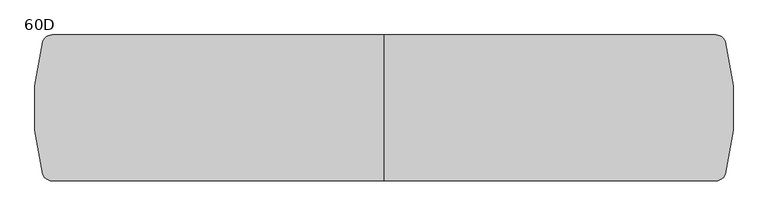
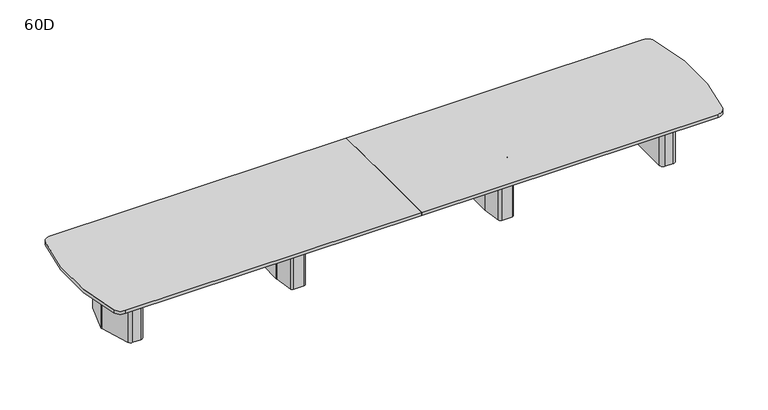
"""IFC4 building model written with IfcOpenShell, lengths in millimetres: furniture geometry, Coalesse_AM_Table_Conference_ETable2_SoftRadiused_24ft_FourBase : 60D."""

import ifcopenshell
import ifcopenshell.guid

model = None  # the IFC model being written
_history = None  # IfcOwnerHistory: only IFC2X3 demands one
_inside = {}  # id of a spatial element -> (the spatial element, [elements in it])
_under = {}  # id of a project, library or spatial element -> (it, [spatial elements below it])
_declared = {}  # id of a project -> (the project, [libraries it declares])
_typed = {}  # id of a type object -> (the type object, [elements of that type])
_made_of = {}  # id of a material, layer set ... -> (it, [elements and type objects made of it])


def new_model(schema):
    """Start an empty IFC model of exactly this schema.

    Asked for "IFC4X3", IfcOpenShell would pick the latest addendum, in which some entities
    have other attributes; the version numbers below select the first issue.
    IFC2X3 requires an IfcOwnerHistory on every rooted entity: one is made here for all.
    """
    global model, _history
    if schema == "IFC4X3":
        model = ifcopenshell.file(schema_version=(4, 3, 0, 0))
    else:
        model = ifcopenshell.file(schema=schema)
    _inside.clear()
    _under.clear()
    _declared.clear()
    _typed.clear()
    _made_of.clear()
    _history = None
    if model.schema == "IFC2X3":
        org = make("IfcOrganization", Name="unknown")
        user = make(
            "IfcPersonAndOrganization",
            ThePerson=make("IfcPerson", FamilyName="unknown"),
            TheOrganization=org,
        )
        app = make(
            "IfcApplication",
            ApplicationDeveloper=org,
            Version="unknown",
            ApplicationFullName="unknown",
            ApplicationIdentifier="unknown",
        )
        _history = make(
            "IfcOwnerHistory",
            OwningUser=user,
            OwningApplication=app,
            ChangeAction="ADDED",
            CreationDate=0,
        )
    return model


def make(cls, **values):
    """One entity of the class cls with the attributes given. An attribute that is None is left unset."""
    return model.create_entity(
        cls, **{name: value for name, value in values.items() if value is not None}
    )


def rooted(cls, **values):
    """An entity with a GlobalId (a new one), such as an element, a storey or a relation."""
    return make(cls, GlobalId=ifcopenshell.guid.new(), OwnerHistory=_history, **values)


def si_unit(unit_type, name, prefix=None):
    """IfcSIUnit, for example si_unit("LENGTHUNIT", "METRE", prefix="MILLI")."""
    return make("IfcSIUnit", UnitType=unit_type, Prefix=prefix, Name=name)


def assignment(units):
    """IfcUnitAssignment: the units of a project."""
    return None if units is None else make("IfcUnitAssignment", Units=units)


def point(xyz):
    """IfcCartesianPoint."""
    return None if xyz is None else make("IfcCartesianPoint", Coordinates=xyz)


def direction(xyz):
    """IfcDirection."""
    return None if xyz is None else make("IfcDirection", DirectionRatios=xyz)


def frame(location, z_axis=None, x_axis=None):
    """IfcAxis2Placement3D, a coordinate frame: its origin and axes. An axis left out is left unset."""
    return make(
        "IfcAxis2Placement3D",
        Location=point(location),
        Axis=direction(z_axis),
        RefDirection=direction(x_axis),
    )


def frame_2d(location, x_axis=None):
    """IfcAxis2Placement2D, a coordinate frame in the plane: its origin and x axis."""
    return make(
        "IfcAxis2Placement2D", Location=point(location), RefDirection=direction(x_axis)
    )


def origin():
    """The frame at (0, 0, 0) with its axes left unset."""
    return frame((0.0, 0.0, 0.0))


def origin_with_axes():
    """The frame at (0, 0, 0) with the z axis (0, 0, 1) and the x axis (1, 0, 0) written out."""
    return frame((0.0, 0.0, 0.0), z_axis=(0.0, 0.0, 1.0), x_axis=(1.0, 0.0, 0.0))


def place(relative_to, where):
    """IfcLocalPlacement: puts the frame where relative to a parent placement (None: the world)."""
    return make(
        "IfcLocalPlacement", PlacementRelTo=relative_to, RelativePlacement=where
    )


def context(
    kind, dimensions, precision=None, world=None, true_north=None, identifier=None
):
    """IfcGeometricRepresentationContext, for example the 3D "Model" context."""
    return make(
        "IfcGeometricRepresentationContext",
        ContextIdentifier=identifier,
        ContextType=kind,
        CoordinateSpaceDimension=dimensions,
        Precision=precision,
        WorldCoordinateSystem=world,
        TrueNorth=true_north,
    )


def project(units=None, contexts=None):
    """IfcProject with its units and contexts."""
    return rooted(
        "IfcProject",
        Name="project",
        RepresentationContexts=contexts,
        UnitsInContext=assignment(units),
    )


def spatial(cls, under=None, at=None, **own):
    """A site, building, storey or space (cls), placed at a placement, below another one or the project."""
    s = rooted(cls, ObjectPlacement=at, **own)
    if under is not None:
        _under.setdefault(under.id(), (under, []))[1].append(s)
    return s


def polyline(points):
    """IfcPolyline through the points."""
    return make("IfcPolyline", Points=[point(p) for p in points])


def circle_curve(where, radius):
    """IfcCircle in the frame where."""
    return make("IfcCircle", Position=where, Radius=radius)


def trimmed(basis, trim1, trim2, sense, master):
    """IfcTrimmedCurve: the piece of a basis curve between two trims."""
    return make(
        "IfcTrimmedCurve",
        BasisCurve=basis,
        Trim1=trim1,
        Trim2=trim2,
        SenseAgreement=sense,
        MasterRepresentation=master,
    )


def segment(curve, same_sense, transition):
    """IfcCompositeCurveSegment."""
    return make(
        "IfcCompositeCurveSegment",
        Transition=transition,
        SameSense=same_sense,
        ParentCurve=curve,
    )


def composite_curve(segments, self_intersect=None):
    """IfcCompositeCurve: segments joined end to end."""
    return make("IfcCompositeCurve", Segments=segments, SelfIntersect=self_intersect)


def outline(outer, holes=None, kind="AREA"):
    """IfcArbitraryClosedProfileDef: a profile drawn as a closed curve; with holes, ...WithVoids."""
    if holes is None:
        return make("IfcArbitraryClosedProfileDef", ProfileType=kind, OuterCurve=outer)
    return make(
        "IfcArbitraryProfileDefWithVoids",
        ProfileType=kind,
        OuterCurve=outer,
        InnerCurves=holes,
    )


def extrude(swept, where, along, depth):
    """IfcExtrudedAreaSolid: the profile swept, set in the frame where, extruded along a direction by depth."""
    return make(
        "IfcExtrudedAreaSolid",
        SweptArea=swept,
        Position=where,
        ExtrudedDirection=direction(along),
        Depth=depth,
    )


def shape(context_of_items, identifier, shape_type, items):
    """IfcShapeRepresentation: the items that make up one representation, for example the "Body"."""
    return make(
        "IfcShapeRepresentation",
        ContextOfItems=context_of_items,
        RepresentationIdentifier=identifier,
        RepresentationType=shape_type,
        Items=items,
    )


def source(mapping_origin, context_of_items, identifier, shape_type, items):
    """IfcRepresentationMap: a shape defined once, which mapped items show again and again."""
    return make(
        "IfcRepresentationMap",
        MappingOrigin=mapping_origin,
        MappedRepresentation=shape(context_of_items, identifier, shape_type, items),
    )


def transform(
    local_origin,
    x_axis=None,
    y_axis=None,
    z_axis=None,
    scale=None,
    scale2=None,
    scale3=None,
    uniform=True,
):
    """IfcCartesianTransformationOperator3D, or its non-uniform kind. x_axis, y_axis, z_axis: its Axis1, 2, 3."""
    if uniform:
        return make(
            "IfcCartesianTransformationOperator3D",
            Axis1=direction(x_axis),
            Axis2=direction(y_axis),
            LocalOrigin=point(local_origin),
            Scale=scale,
            Axis3=direction(z_axis),
        )
    return make(
        "IfcCartesianTransformationOperator3DnonUniform",
        Axis1=direction(x_axis),
        Axis2=direction(y_axis),
        LocalOrigin=point(local_origin),
        Scale=scale,
        Axis3=direction(z_axis),
        Scale2=scale2,
        Scale3=scale3,
    )


def mapped(mapping_source, mapping_target):
    """IfcMappedItem: shows the shape of a source again, moved by a transform."""
    return make(
        "IfcMappedItem", MappingSource=mapping_source, MappingTarget=mapping_target
    )


def made_of(thing, what):
    """Note that an element or type object is made of a material, layer set ...; save() writes the relation."""
    if what is not None:
        _made_of.setdefault(what.id(), (what, []))[1].append(thing)
    return thing


def element(
    cls,
    number,
    at=None,
    inside=None,
    cuts=None,
    type_object=None,
    material=None,
    context=None,
    identifier="Body",
    shape_type=None,
    held_by="IfcProductDefinitionShape",
    body=None,
    shapes=None,
    **own,
):
    """One element of the class cls, such as IfcWall. Its Tag is "e" and its number.

    at: its placement. inside: the storey or other place that contains it. cuts: it is an
    opening in that element (IfcRelVoidsElement). A single representation is given by context,
    identifier, shape_type and body (its items); several are given by shapes. held_by: the class
    of the entity that holds the representations. save() writes the other relations.
    """
    e = rooted(cls, Tag="e%d" % number, ObjectPlacement=at, **own)
    if body is not None:
        shapes = [shape(context, identifier, shape_type, body)]
    if shapes is not None:
        e.Representation = make(held_by, Representations=shapes)
    if inside is not None:
        _inside.setdefault(inside.id(), (inside, []))[1].append(e)
    if cuts is not None:
        rooted(
            "IfcRelVoidsElement", RelatingBuildingElement=cuts, RelatedOpeningElement=e
        )
    if type_object is not None:
        _typed.setdefault(type_object.id(), (type_object, []))[1].append(e)
    return made_of(e, material)


def aggregate(whole, parts):
    """IfcRelAggregates: a whole, such as a stair, and the parts it consists of."""
    return rooted("IfcRelAggregates", RelatingObject=whole, RelatedObjects=parts)


def save(model, path):
    """Write the relations noted so far, then the file.

    IfcRelAggregates (storeys below a building ...), IfcRelContainedInSpatialStructure (elements
    in a storey), IfcRelDefinesByType, IfcRelAssociatesMaterial and IfcRelDeclares: one each for
    every whole, place, type object, material and project.
    """
    for whole, parts in _under.values():
        aggregate(whole, parts)
    for where, things in _inside.values():
        rooted(
            "IfcRelContainedInSpatialStructure",
            RelatedElements=things,
            RelatingStructure=where,
        )
    for kind, things in _typed.values():
        rooted("IfcRelDefinesByType", RelatedObjects=things, RelatingType=kind)
    for what, things in _made_of.values():
        rooted("IfcRelAssociatesMaterial", RelatedObjects=things, RelatingMaterial=what)
    for by, libraries in _declared.values():
        rooted("IfcRelDeclares", RelatingContext=by, RelatedDefinitions=libraries)
    model.write(path)


def plane_surface(at):
    """IfcPlane: the flat surface through the origin of the frame at, square to its z axis."""
    return make("IfcPlane", Position=at)


def cylinder_surface(at, radius):
    """IfcCylindricalSurface: all points at the distance radius from the z axis of the frame at."""
    return make("IfcCylindricalSurface", Position=at, Radius=radius)


def revolved_surface(curve, axis_point, axis_direction):
    """IfcSurfaceOfRevolution: the curve turned about the line through axis_point along axis_direction."""
    return make(
        "IfcSurfaceOfRevolution",
        SweptCurve=make("IfcArbitraryOpenProfileDef", ProfileType="CURVE", Curve=curve),
        AxisPosition=make("IfcAxis1Placement", Location=point(axis_point), Axis=direction(axis_direction)),
    )


def advanced_brep(points, edges, surfaces, faces):
    """IfcAdvancedBrep: a solid bounded by faces that lie on surfaces and meet in shared edges.

    An edge is (start, end): straight between two places in points (the first is 0);
    or (start, end, curve); or (start, end, curve, False) where it runs against its curve.
    A face is (place in surfaces, loops), or (place, loops, False) where it looks against
    its surface's normal. A loop lists edges by number (the first is 1), with a minus sign
    where the edge is run from its end to its start. The first loop is the outer one.
    """
    corners = [point(p) for p in points]
    vertices = [make("IfcVertexPoint", VertexGeometry=c) for c in corners]
    made = []
    for start, end, *more in edges:
        made.append(
            make(
                "IfcEdgeCurve",
                EdgeStart=vertices[start],
                EdgeEnd=vertices[end],
                EdgeGeometry=more[0] if more else make("IfcPolyline", Points=[corners[start], corners[end]]),
                SameSense=more[1] if len(more) > 1 else True,
            )
        )
    hull = []
    for where, loops, *sense in faces:
        bounds = []
        for j, loop in enumerate(loops):
            ring = [make("IfcOrientedEdge", EdgeElement=made[abs(k) - 1], Orientation=k > 0) for k in loop]
            bounds.append(
                make(
                    "IfcFaceOuterBound" if j == 0 else "IfcFaceBound",
                    Bound=make("IfcEdgeLoop", EdgeList=ring),
                    Orientation=True,
                )
            )
        hull.append(make("IfcAdvancedFace", Bounds=bounds, FaceSurface=surfaces[where], SameSense=sense[0] if sense else True))
    return make("IfcAdvancedBrep", Outer=make("IfcClosedShell", CfsFaces=hull))


def furniture_60d_cc2cddbc(model_context):
    return source(origin(), model_context, "Body", "SolidModel", [
        advanced_brep(
        [(1280.2357815, 381.0, 698.5), (1158.1642185, 381.0, 698.5), (1133.0114006, 359.1349332, 698.5), (1101.9721821, 138.2753661, 698.5), (1101.725, 134.740433, 698.5), (1101.725, -134.7404196, 698.5), (1101.9721537, -138.2751502, 698.5), (1133.0095605, -359.1347306, 698.5), (1158.1624068, -381.0, 698.5), (1280.2375932, -381.0, 698.5), (1305.3904395, -359.1347306, 698.5), (1336.4278463, -138.2751502, 698.5), (1336.675, -134.7404196, 698.5), (1336.675, 134.740433, 698.5), (1336.4278179, 138.2753661, 698.5), (1305.3885994, 359.1349332, 698.5), (1244.6, 314.325, 698.5), (1270.0, 288.925, 698.5), (1270.0, -288.925, 698.5), (1244.6, -314.325, 698.5), (1193.8, -314.325, 698.5), (1168.4, -288.925, 698.5), (1168.4, 288.925, 698.5), (1193.8, 314.325, 698.5), (1280.2357815, 381.0, 3.175), (1305.3885994, 359.1349332, 3.175), (1336.4278179, 138.2753661, 3.175), (1336.675, 134.740433, 3.175), (1336.675, -134.7404196, 3.175), (1336.4278463, -138.2751502, 3.175), (1305.3904395, -359.1347306, 3.175), (1280.2375932, -381.0, 3.175), (1158.1624068, -381.0, 3.175), (1133.0095605, -359.1347306, 3.175), (1101.9721537, -138.2751502, 3.175), (1101.725, -134.7404196, 3.175), (1101.725, 134.740433, 3.175), (1101.9721821, 138.2753661, 3.175), (1133.0114006, 359.1349332, 3.175), (1158.1642185, 381.0, 3.175), (1244.6, 327.025, 3.175), (1193.8, 327.025, 3.175), (1155.7, 288.925, 3.175), (1155.7, -288.925, 3.175), (1193.8, -327.025, 3.175), (1244.6, -327.025, 3.175), (1282.7, -288.925, 3.175), (1282.7, 288.925, 3.175), (1244.6, 314.325, 3.175), (1270.0, 288.925, 3.175), (1270.0, -288.925, 3.175), (1244.6, -314.325, 3.175), (1193.8, -314.325, 3.175), (1168.4, -288.925, 3.175), (1168.4, 288.925, 3.175), (1193.8, 314.325, 3.175), (1244.6, 327.025, 0.0), (1282.7, 288.925, 0.0), (1282.7, -288.925, 0.0), (1244.6, -327.025, 0.0), (1193.8, -327.025, 0.0), (1155.7, -288.925, 0.0), (1155.7, 288.925, 0.0), (1193.8, 327.025, 0.0)],
        [
            (0, 1),
            (1, 2, circle_curve(frame((1158.1642185, 355.6, 698.5), z_axis=(0.0, 0.0, 1.0), x_axis=(1.0, 0.0, 0.0)), 25.4)),
            (2, 3),
            (3, 4, circle_curve(frame((1127.125, 134.740433, 698.5), z_axis=(0.0, 0.0, 1.0), x_axis=(1.0, 0.0, 0.0)), 25.4)),
            (4, 5),
            (5, 6, circle_curve(frame((1127.125, -134.7404196, 698.5), z_axis=(0.0, 0.0, 1.0), x_axis=(1.0, 0.0, 0.0)), 25.4)),
            (6, 7),
            (7, 8, circle_curve(frame((1158.1624068, -355.6, 698.5), z_axis=(0.0, 0.0, 1.0), x_axis=(1.0, 0.0, 0.0)), 25.4)),
            (8, 9),
            (9, 10, circle_curve(frame((1280.2375932, -355.6, 698.5), z_axis=(0.0, 0.0, 1.0), x_axis=(1.0, 0.0, 0.0)), 25.4)),
            (10, 11),
            (11, 12, circle_curve(frame((1311.275, -134.7404196, 698.5), z_axis=(0.0, 0.0, 1.0), x_axis=(1.0, 0.0, 0.0)), 25.4)),
            (12, 13),
            (13, 14, circle_curve(frame((1311.275, 134.740433, 698.5), z_axis=(0.0, 0.0, 1.0), x_axis=(1.0, 0.0, 0.0)), 25.4)),
            (14, 15),
            (15, 0, circle_curve(frame((1280.2357815, 355.6, 698.5), z_axis=(0.0, 0.0, 1.0), x_axis=(1.0, 0.0, 0.0)), 25.4)),
            (16, 17, circle_curve(frame((1244.6, 288.925, 698.5), z_axis=(0.0, 0.0, -1.0), x_axis=(1.0, 0.0, 0.0)), 25.4)),
            (17, 18),
            (18, 19, circle_curve(frame((1244.6, -288.925, 698.5), z_axis=(0.0, 0.0, -1.0), x_axis=(1.0, 0.0, 0.0)), 25.4)),
            (19, 20),
            (20, 21, circle_curve(frame((1193.8, -288.925, 698.5), z_axis=(0.0, 0.0, -1.0), x_axis=(1.0, 0.0, 0.0)), 25.4)),
            (21, 22),
            (22, 23, circle_curve(frame((1193.8, 288.925, 698.5), z_axis=(0.0, 0.0, -1.0), x_axis=(1.0, 0.0, 0.0)), 25.4)),
            (23, 16),
            (24, 25, circle_curve(frame((1280.2357815, 355.6, 3.175), z_axis=(0.0, 0.0, -1.0), x_axis=(1.0, 0.0, 0.0)), 25.4)),
            (25, 26),
            (26, 27, circle_curve(frame((1311.275, 134.740433, 3.175), z_axis=(0.0, 0.0, -1.0), x_axis=(1.0, 0.0, 0.0)), 25.4)),
            (27, 28),
            (28, 29, circle_curve(frame((1311.275, -134.7404196, 3.175), z_axis=(0.0, 0.0, -1.0), x_axis=(1.0, 0.0, 0.0)), 25.4)),
            (29, 30),
            (30, 31, circle_curve(frame((1280.2375932, -355.6, 3.175), z_axis=(0.0, 0.0, -1.0), x_axis=(1.0, 0.0, 0.0)), 25.4)),
            (31, 32),
            (32, 33, circle_curve(frame((1158.1624068, -355.6, 3.175), z_axis=(0.0, 0.0, -1.0), x_axis=(1.0, 0.0, 0.0)), 25.4)),
            (33, 34),
            (34, 35, circle_curve(frame((1127.125, -134.7404196, 3.175), z_axis=(0.0, 0.0, -1.0), x_axis=(1.0, 0.0, 0.0)), 25.4)),
            (35, 36),
            (36, 37, circle_curve(frame((1127.125, 134.740433, 3.175), z_axis=(0.0, 0.0, -1.0), x_axis=(1.0, 0.0, 0.0)), 25.4)),
            (37, 38),
            (38, 39, circle_curve(frame((1158.1642185, 355.6, 3.175), z_axis=(0.0, 0.0, -1.0), x_axis=(1.0, 0.0, 0.0)), 25.4)),
            (39, 24),
            (40, 41),
            (41, 42, circle_curve(frame((1193.8, 288.925, 3.175), z_axis=(0.0, 0.0, 1.0), x_axis=(1.0, 0.0, 0.0)), 38.1)),
            (42, 43),
            (43, 44, circle_curve(frame((1193.8, -288.925, 3.175), z_axis=(0.0, 0.0, 1.0), x_axis=(1.0, 0.0, 0.0)), 38.1)),
            (44, 45),
            (45, 46, circle_curve(frame((1244.6, -288.925, 3.175), z_axis=(0.0, 0.0, 1.0), x_axis=(1.0, 0.0, 0.0)), 38.1)),
            (46, 47),
            (47, 40, circle_curve(frame((1244.6, 288.925, 3.175), z_axis=(0.0, 0.0, 1.0), x_axis=(1.0, 0.0, 0.0)), 38.1)),
            (0, 24),
            (39, 1),
            (38, 2),
            (37, 3),
            (36, 4),
            (35, 5),
            (34, 6),
            (33, 7),
            (32, 8),
            (31, 9),
            (30, 10),
            (29, 11),
            (28, 12),
            (27, 13),
            (26, 14),
            (25, 15),
            (16, 48),
            (48, 49, circle_curve(frame((1244.6, 288.925, 3.175), z_axis=(0.0, 0.0, -1.0), x_axis=(1.0, 0.0, 0.0)), 25.4)),
            (49, 17),
            (49, 50),
            (50, 18),
            (50, 51, circle_curve(frame((1244.6, -288.925, 3.175), z_axis=(0.0, 0.0, -1.0), x_axis=(1.0, 0.0, 0.0)), 25.4)),
            (51, 19),
            (51, 52),
            (52, 20),
            (52, 53, circle_curve(frame((1193.8, -288.925, 3.175), z_axis=(0.0, 0.0, -1.0), x_axis=(1.0, 0.0, 0.0)), 25.4)),
            (53, 21),
            (53, 54),
            (54, 22),
            (54, 55, circle_curve(frame((1193.8, 288.925, 3.175), z_axis=(0.0, 0.0, -1.0), x_axis=(1.0, 0.0, 0.0)), 25.4)),
            (55, 23),
            (55, 48),
            (56, 57, circle_curve(frame((1244.6, 288.925, 0.0), z_axis=(0.0, 0.0, -1.0), x_axis=(1.0, 0.0, 0.0)), 38.1)),
            (57, 58),
            (58, 59, circle_curve(frame((1244.6, -288.925, 0.0), z_axis=(0.0, 0.0, -1.0), x_axis=(1.0, 0.0, 0.0)), 38.1)),
            (59, 60),
            (60, 61, circle_curve(frame((1193.8, -288.925, 0.0), z_axis=(0.0, 0.0, -1.0), x_axis=(1.0, 0.0, 0.0)), 38.1)),
            (61, 62),
            (62, 63, circle_curve(frame((1193.8, 288.925, 0.0), z_axis=(0.0, 0.0, -1.0), x_axis=(1.0, 0.0, 0.0)), 38.1)),
            (63, 56),
            (63, 41),
            (40, 56),
            (62, 42),
            (61, 43),
            (60, 44),
            (59, 45),
            (58, 46),
            (57, 47),
        ],
        [
            plane_surface(frame((-304.8, 381.0, 698.5), z_axis=(0.0, 0.0, 1.0), x_axis=(-1.0, 0.0, 0.0))),
            plane_surface(frame((-304.8, 381.0, 3.175), z_axis=(0.0, 0.0, -1.0), x_axis=(1.0, 0.0, 0.0))),
            plane_surface(frame((1280.2357815, 381.0, 698.5), z_axis=(0.0, 1.0, 0.0), x_axis=(0.0, 0.0, -1.0))),
            cylinder_surface(frame((1158.1642185, 355.6, 3.175), z_axis=(0.0, 0.0, 1.0), x_axis=(1.0, 0.0, 0.0)), 25.4),
            plane_surface(frame((1133.0114006, 359.1349332, 698.5), z_axis=(-0.9902684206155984, 0.13917059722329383, 0.0), x_axis=(0.0, 0.0, -1.0))),
            cylinder_surface(frame((1127.125, 134.740433, 3.175), z_axis=(0.0, 0.0, 1.0), x_axis=(1.0, 0.0, 0.0)), 25.4),
            plane_surface(frame((1101.725, 134.740433, 698.5), z_axis=(-1.0, 0.0, 0.0), x_axis=(0.0, 0.0, -1.0))),
            cylinder_surface(frame((1127.125, -134.7404196, 3.175), z_axis=(0.0, 0.0, 1.0), x_axis=(1.0, 0.0, 0.0)), 25.4),
            plane_surface(frame((1101.9721537, -138.2751502, 698.5), z_axis=(-0.9902695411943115, -0.1391626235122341, 0.0), x_axis=(0.0, 0.0, -1.0))),
            cylinder_surface(frame((1158.1624068, -355.6, 3.175), z_axis=(0.0, 0.0, 1.0), x_axis=(1.0, 0.0, 0.0)), 25.4),
            plane_surface(frame((1158.1624068, -381.0, 698.5), z_axis=(0.0, -1.0, 0.0), x_axis=(0.0, 0.0, -1.0))),
            cylinder_surface(frame((1280.2375932, -355.6, 3.175), z_axis=(0.0, 0.0, 1.0), x_axis=(1.0, 0.0, 0.0)), 25.4),
            plane_surface(frame((1305.3904395, -359.1347306, 698.5), z_axis=(0.9902695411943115, -0.1391626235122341, 0.0), x_axis=(0.0, 0.0, -1.0))),
            cylinder_surface(frame((1311.275, -134.7404196, 3.175), z_axis=(0.0, 0.0, 1.0), x_axis=(1.0, 0.0, 0.0)), 25.4),
            plane_surface(frame((1336.675, -134.7404196, 698.5), z_axis=(1.0, 0.0, 0.0), x_axis=(0.0, 0.0, -1.0))),
            cylinder_surface(frame((1311.275, 134.740433, 3.175), z_axis=(0.0, 0.0, 1.0), x_axis=(1.0, 0.0, 0.0)), 25.4),
            plane_surface(frame((1336.4278179, 138.2753661, 698.5), z_axis=(0.9902684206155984, 0.13917059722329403, 0.0), x_axis=(0.0, 0.0, -1.0))),
            cylinder_surface(frame((1280.2357815, 355.6, 3.175), z_axis=(0.0, 0.0, 1.0), x_axis=(1.0, 0.0, 0.0)), 25.4),
            revolved_surface(polyline([(1270.0, 288.925, 3.175), (1270.0, 288.925, 698.5)]), (1244.6, 288.925, 0.0), (0.0, 0.0, -1.0)),
            plane_surface(frame((1270.0, 288.925, 698.5), z_axis=(-1.0, 0.0, 0.0), x_axis=(0.0, 0.0, -1.0))),
            revolved_surface(polyline([(1270.0, -288.925, 3.175), (1270.0, -288.925, 698.5)]), (1244.6, -288.925, 0.0), (0.0, 0.0, -1.0)),
            plane_surface(frame((1244.6, -314.325, 698.5), z_axis=(0.0, 1.0, 0.0), x_axis=(0.0, 0.0, -1.0))),
            revolved_surface(polyline([(1219.2, -288.925, 3.175), (1219.2, -288.925, 698.5)]), (1193.8, -288.925, 0.0), (0.0, 0.0, -1.0)),
            plane_surface(frame((1168.4, -288.925, 698.5), z_axis=(1.0, 0.0, 0.0), x_axis=(0.0, 0.0, -1.0))),
            revolved_surface(polyline([(1219.2, 288.925, 3.175), (1219.2, 288.925, 698.5)]), (1193.8, 288.925, 0.0), (0.0, 0.0, -1.0)),
            plane_surface(frame((1193.8, 314.325, 698.5), z_axis=(0.0, -1.0, 0.0), x_axis=(0.0, 0.0, -1.0))),
            plane_surface(frame((1168.4, 327.025, 3.175), z_axis=(0.0, 0.0, 1.0), x_axis=(-1.0, 0.0, 0.0))),
            plane_surface(frame((1168.4, 327.025, 0.0), z_axis=(0.0, 0.0, -1.0), x_axis=(1.0, 0.0, 0.0))),
            plane_surface(frame((1244.6, 327.025, 3.175), z_axis=(0.0, 1.0, 0.0), x_axis=(0.0, 0.0, -1.0))),
            cylinder_surface(frame((1193.8, 288.925, 0.0), z_axis=(0.0, 0.0, 1.0), x_axis=(1.0, 0.0, 0.0)), 38.1),
            plane_surface(frame((1155.7, 288.925, 3.175), z_axis=(-1.0, 0.0, 0.0), x_axis=(0.0, 0.0, -1.0))),
            cylinder_surface(frame((1193.8, -288.925, 0.0), z_axis=(0.0, 0.0, 1.0), x_axis=(1.0, 0.0, 0.0)), 38.1),
            plane_surface(frame((1193.8, -327.025, 3.175), z_axis=(0.0, -1.0, 0.0), x_axis=(0.0, 0.0, -1.0))),
            cylinder_surface(frame((1244.6, -288.925, 0.0), z_axis=(0.0, 0.0, 1.0), x_axis=(1.0, 0.0, 0.0)), 38.1),
            plane_surface(frame((1282.7, -288.925, 3.175), z_axis=(1.0, 0.0, 0.0), x_axis=(0.0, 0.0, -1.0))),
            cylinder_surface(frame((1244.6, 288.925, 0.0), z_axis=(0.0, 0.0, 1.0), x_axis=(1.0, 0.0, 0.0)), 38.1),
        ],
        [
            (0, [[1, 2, 3, 4, 5, 6, 7, 8, 9, 10, 11, 12, 13, 14, 15, 16], [17, 18, 19, 20, 21, 22, 23, 24]]),
            (1, [[25, 26, 27, 28, 29, 30, 31, 32, 33, 34, 35, 36, 37, 38, 39, 40], [41, 42, 43, 44, 45, 46, 47, 48]]),
            (2, [[-1, 49, -40, 50]]),
            (3, [[-2, -50, -39, 51]]),
            (4, [[-3, -51, -38, 52]]),
            (5, [[-4, -52, -37, 53]]),
            (6, [[-5, -53, -36, 54]]),
            (7, [[-6, -54, -35, 55]]),
            (8, [[-7, -55, -34, 56]]),
            (9, [[-8, -56, -33, 57]]),
            (10, [[-9, -57, -32, 58]]),
            (11, [[-10, -58, -31, 59]]),
            (12, [[-11, -59, -30, 60]]),
            (13, [[-12, -60, -29, 61]]),
            (14, [[-13, -61, -28, 62]]),
            (15, [[-14, -62, -27, 63]]),
            (16, [[-15, -63, -26, 64]]),
            (17, [[-16, -64, -25, -49]]),
            (18, [[-17, 65, 66, 67]]),
            (19, [[-18, -67, 68, 69]]),
            (20, [[-19, -69, 70, 71]]),
            (21, [[-20, -71, 72, 73]]),
            (22, [[-21, -73, 74, 75]]),
            (23, [[-22, -75, 76, 77]]),
            (24, [[-23, -77, 78, 79]]),
            (25, [[-24, -79, 80, -65]]),
            (26, [[-66, -80, -78, -76, -74, -72, -70, -68]]),
            (27, [[81, 82, 83, 84, 85, 86, 87, 88]]),
            (28, [[-88, 89, -41, 90]]),
            (29, [[-87, 91, -42, -89]]),
            (30, [[-86, 92, -43, -91]]),
            (31, [[-85, 93, -44, -92]]),
            (32, [[-84, 94, -45, -93]]),
            (33, [[-83, 95, -46, -94]]),
            (34, [[-82, 96, -47, -95]]),
            (35, [[-81, -90, -48, -96]]),
        ],
    ),
        advanced_brep(
        [(-1158.1642185, 381.0, 698.5), (-1280.2357815, 381.0, 698.5), (-1305.3885994, 359.1349332, 698.5), (-1336.4278179, 138.2753661, 698.5), (-1336.675, 134.740433, 698.5), (-1336.675, -134.7404196, 698.5), (-1336.4278463, -138.2751502, 698.5), (-1305.3904395, -359.1347306, 698.5), (-1280.2375932, -381.0, 698.5), (-1158.1624068, -381.0, 698.5), (-1133.0095605, -359.1347306, 698.5), (-1101.9721537, -138.2751502, 698.5), (-1101.725, -134.7404196, 698.5), (-1101.725, 134.740433, 698.5), (-1101.9721821, 138.2753661, 698.5), (-1133.0114006, 359.1349332, 698.5), (-1193.8, 314.325, 698.5), (-1168.4, 288.925, 698.5), (-1168.4, -288.925, 698.5), (-1193.8, -314.325, 698.5), (-1244.6, -314.325, 698.5), (-1270.0, -288.925, 698.5), (-1270.0, 288.925, 698.5), (-1244.6, 314.325, 698.5), (-1158.1642185, 381.0, 3.175), (-1133.0114006, 359.1349332, 3.175), (-1101.9721821, 138.2753661, 3.175), (-1101.725, 134.740433, 3.175), (-1101.725, -134.7404196, 3.175), (-1101.9721537, -138.2751502, 3.175), (-1133.0095605, -359.1347306, 3.175), (-1158.1624068, -381.0, 3.175), (-1280.2375932, -381.0, 3.175), (-1305.3904395, -359.1347306, 3.175), (-1336.4278463, -138.2751502, 3.175), (-1336.675, -134.7404196, 3.175), (-1336.675, 134.740433, 3.175), (-1336.4278179, 138.2753661, 3.175), (-1305.3885994, 359.1349332, 3.175), (-1280.2357815, 381.0, 3.175), (-1193.8, 327.025, 3.175), (-1244.6, 327.025, 3.175), (-1282.7, 288.925, 3.175), (-1282.7, -288.925, 3.175), (-1244.6, -327.025, 3.175), (-1193.8, -327.025, 3.175), (-1155.7, -288.925, 3.175), (-1155.7, 288.925, 3.175), (-1193.8, 314.325, 3.175), (-1168.4, 288.925, 3.175), (-1168.4, -288.925, 3.175), (-1193.8, -314.325, 3.175), (-1244.6, -314.325, 3.175), (-1270.0, -288.925, 3.175), (-1270.0, 288.925, 3.175), (-1244.6, 314.325, 3.175), (-1193.8, 327.025, 0.0), (-1155.7, 288.925, 0.0), (-1155.7, -288.925, 0.0), (-1193.8, -327.025, 0.0), (-1244.6, -327.025, 0.0), (-1282.7, -288.925, 0.0), (-1282.7, 288.925, 0.0), (-1244.6, 327.025, 0.0)],
        [
            (0, 1),
            (1, 2, circle_curve(frame((-1280.2357815, 355.6, 698.5), z_axis=(0.0, 0.0, 1.0), x_axis=(1.0, 0.0, 0.0)), 25.4)),
            (2, 3),
            (3, 4, circle_curve(frame((-1311.275, 134.740433, 698.5), z_axis=(0.0, 0.0, 1.0), x_axis=(1.0, 0.0, 0.0)), 25.4)),
            (4, 5),
            (5, 6, circle_curve(frame((-1311.275, -134.7404196, 698.5), z_axis=(0.0, 0.0, 1.0), x_axis=(1.0, 0.0, 0.0)), 25.4)),
            (6, 7),
            (7, 8, circle_curve(frame((-1280.2375932, -355.6, 698.5), z_axis=(0.0, 0.0, 1.0), x_axis=(1.0, 0.0, 0.0)), 25.4)),
            (8, 9),
            (9, 10, circle_curve(frame((-1158.1624068, -355.6, 698.5), z_axis=(0.0, 0.0, 1.0), x_axis=(1.0, 0.0, 0.0)), 25.4)),
            (10, 11),
            (11, 12, circle_curve(frame((-1127.125, -134.7404196, 698.5), z_axis=(0.0, 0.0, 1.0), x_axis=(1.0, 0.0, 0.0)), 25.4)),
            (12, 13),
            (13, 14, circle_curve(frame((-1127.125, 134.740433, 698.5), z_axis=(0.0, 0.0, 1.0), x_axis=(1.0, 0.0, 0.0)), 25.4)),
            (14, 15),
            (15, 0, circle_curve(frame((-1158.1642185, 355.6, 698.5), z_axis=(0.0, 0.0, 1.0), x_axis=(1.0, 0.0, 0.0)), 25.4)),
            (16, 17, circle_curve(frame((-1193.8, 288.925, 698.5), z_axis=(0.0, 0.0, -1.0), x_axis=(1.0, 0.0, 0.0)), 25.4)),
            (17, 18),
            (18, 19, circle_curve(frame((-1193.8, -288.925, 698.5), z_axis=(0.0, 0.0, -1.0), x_axis=(1.0, 0.0, 0.0)), 25.4)),
            (19, 20),
            (20, 21, circle_curve(frame((-1244.6, -288.925, 698.5), z_axis=(0.0, 0.0, -1.0), x_axis=(1.0, 0.0, 0.0)), 25.4)),
            (21, 22),
            (22, 23, circle_curve(frame((-1244.6, 288.925, 698.5), z_axis=(0.0, 0.0, -1.0), x_axis=(1.0, 0.0, 0.0)), 25.4)),
            (23, 16),
            (24, 25, circle_curve(frame((-1158.1642185, 355.6, 3.175), z_axis=(0.0, 0.0, -1.0), x_axis=(1.0, 0.0, 0.0)), 25.4)),
            (25, 26),
            (26, 27, circle_curve(frame((-1127.125, 134.740433, 3.175), z_axis=(0.0, 0.0, -1.0), x_axis=(1.0, 0.0, 0.0)), 25.4)),
            (27, 28),
            (28, 29, circle_curve(frame((-1127.125, -134.7404196, 3.175), z_axis=(0.0, 0.0, -1.0), x_axis=(1.0, 0.0, 0.0)), 25.4)),
            (29, 30),
            (30, 31, circle_curve(frame((-1158.1624068, -355.6, 3.175), z_axis=(0.0, 0.0, -1.0), x_axis=(1.0, 0.0, 0.0)), 25.4)),
            (31, 32),
            (32, 33, circle_curve(frame((-1280.2375932, -355.6, 3.175), z_axis=(0.0, 0.0, -1.0), x_axis=(1.0, 0.0, 0.0)), 25.4)),
            (33, 34),
            (34, 35, circle_curve(frame((-1311.275, -134.7404196, 3.175), z_axis=(0.0, 0.0, -1.0), x_axis=(1.0, 0.0, 0.0)), 25.4)),
            (35, 36),
            (36, 37, circle_curve(frame((-1311.275, 134.740433, 3.175), z_axis=(0.0, 0.0, -1.0), x_axis=(1.0, 0.0, 0.0)), 25.4)),
            (37, 38),
            (38, 39, circle_curve(frame((-1280.2357815, 355.6, 3.175), z_axis=(0.0, 0.0, -1.0), x_axis=(1.0, 0.0, 0.0)), 25.4)),
            (39, 24),
            (40, 41),
            (41, 42, circle_curve(frame((-1244.6, 288.925, 3.175), z_axis=(0.0, 0.0, 1.0), x_axis=(1.0, 0.0, 0.0)), 38.1)),
            (42, 43),
            (43, 44, circle_curve(frame((-1244.6, -288.925, 3.175), z_axis=(0.0, 0.0, 1.0), x_axis=(1.0, 0.0, 0.0)), 38.1)),
            (44, 45),
            (45, 46, circle_curve(frame((-1193.8, -288.925, 3.175), z_axis=(0.0, 0.0, 1.0), x_axis=(1.0, 0.0, 0.0)), 38.1)),
            (46, 47),
            (47, 40, circle_curve(frame((-1193.8, 288.925, 3.175), z_axis=(0.0, 0.0, 1.0), x_axis=(1.0, 0.0, 0.0)), 38.1)),
            (0, 24),
            (39, 1),
            (38, 2),
            (37, 3),
            (36, 4),
            (35, 5),
            (34, 6),
            (33, 7),
            (32, 8),
            (31, 9),
            (30, 10),
            (29, 11),
            (28, 12),
            (27, 13),
            (26, 14),
            (25, 15),
            (16, 48),
            (48, 49, circle_curve(frame((-1193.8, 288.925, 3.175), z_axis=(0.0, 0.0, -1.0), x_axis=(1.0, 0.0, 0.0)), 25.4)),
            (49, 17),
            (49, 50),
            (50, 18),
            (50, 51, circle_curve(frame((-1193.8, -288.925, 3.175), z_axis=(0.0, 0.0, -1.0), x_axis=(1.0, 0.0, 0.0)), 25.4)),
            (51, 19),
            (51, 52),
            (52, 20),
            (52, 53, circle_curve(frame((-1244.6, -288.925, 3.175), z_axis=(0.0, 0.0, -1.0), x_axis=(1.0, 0.0, 0.0)), 25.4)),
            (53, 21),
            (53, 54),
            (54, 22),
            (54, 55, circle_curve(frame((-1244.6, 288.925, 3.175), z_axis=(0.0, 0.0, -1.0), x_axis=(1.0, 0.0, 0.0)), 25.4)),
            (55, 23),
            (55, 48),
            (56, 57, circle_curve(frame((-1193.8, 288.925, 0.0), z_axis=(0.0, 0.0, -1.0), x_axis=(1.0, 0.0, 0.0)), 38.1)),
            (57, 58),
            (58, 59, circle_curve(frame((-1193.8, -288.925, 0.0), z_axis=(0.0, 0.0, -1.0), x_axis=(1.0, 0.0, 0.0)), 38.1)),
            (59, 60),
            (60, 61, circle_curve(frame((-1244.6, -288.925, 0.0), z_axis=(0.0, 0.0, -1.0), x_axis=(1.0, 0.0, 0.0)), 38.1)),
            (61, 62),
            (62, 63, circle_curve(frame((-1244.6, 288.925, 0.0), z_axis=(0.0, 0.0, -1.0), x_axis=(1.0, 0.0, 0.0)), 38.1)),
            (63, 56),
            (63, 41),
            (40, 56),
            (62, 42),
            (61, 43),
            (60, 44),
            (59, 45),
            (58, 46),
            (57, 47),
        ],
        [
            plane_surface(frame((-2743.2, 381.0, 698.5), z_axis=(0.0, 0.0, 1.0), x_axis=(-1.0, 0.0, 0.0))),
            plane_surface(frame((-2743.2, 381.0, 3.175), z_axis=(0.0, 0.0, -1.0), x_axis=(1.0, 0.0, 0.0))),
            plane_surface(frame((-1158.1642185, 381.0, 698.5), z_axis=(0.0, 1.0, 0.0), x_axis=(0.0, 0.0, -1.0))),
            cylinder_surface(frame((-1280.2357815, 355.6, 3.175), z_axis=(0.0, 0.0, 1.0), x_axis=(1.0, 0.0, 0.0)), 25.4),
            plane_surface(frame((-1305.3885994, 359.1349332, 698.5), z_axis=(-0.9902684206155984, 0.13917059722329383, 0.0), x_axis=(0.0, 0.0, -1.0))),
            cylinder_surface(frame((-1311.275, 134.740433, 3.175), z_axis=(0.0, 0.0, 1.0), x_axis=(1.0, 0.0, 0.0)), 25.4),
            plane_surface(frame((-1336.675, 134.740433, 698.5), z_axis=(-1.0, 0.0, 0.0), x_axis=(0.0, 0.0, -1.0))),
            cylinder_surface(frame((-1311.275, -134.7404196, 3.175), z_axis=(0.0, 0.0, 1.0), x_axis=(1.0, 0.0, 0.0)), 25.4),
            plane_surface(frame((-1336.4278463, -138.2751502, 698.5), z_axis=(-0.9902695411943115, -0.1391626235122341, 0.0), x_axis=(0.0, 0.0, -1.0))),
            cylinder_surface(frame((-1280.2375932, -355.6, 3.175), z_axis=(0.0, 0.0, 1.0), x_axis=(1.0, 0.0, 0.0)), 25.4),
            plane_surface(frame((-1280.2375932, -381.0, 698.5), z_axis=(0.0, -1.0, 0.0), x_axis=(0.0, 0.0, -1.0))),
            cylinder_surface(frame((-1158.1624068, -355.6, 3.175), z_axis=(0.0, 0.0, 1.0), x_axis=(1.0, 0.0, 0.0)), 25.4),
            plane_surface(frame((-1133.0095605, -359.1347306, 698.5), z_axis=(0.9902695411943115, -0.1391626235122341, 0.0), x_axis=(0.0, 0.0, -1.0))),
            cylinder_surface(frame((-1127.125, -134.7404196, 3.175), z_axis=(0.0, 0.0, 1.0), x_axis=(1.0, 0.0, 0.0)), 25.4),
            plane_surface(frame((-1101.725, -134.7404196, 698.5), z_axis=(1.0, 0.0, 0.0), x_axis=(0.0, 0.0, -1.0))),
            cylinder_surface(frame((-1127.125, 134.740433, 3.175), z_axis=(0.0, 0.0, 1.0), x_axis=(1.0, 0.0, 0.0)), 25.4),
            plane_surface(frame((-1101.9721821, 138.2753661, 698.5), z_axis=(0.9902684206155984, 0.13917059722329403, 0.0), x_axis=(0.0, 0.0, -1.0))),
            cylinder_surface(frame((-1158.1642185, 355.6, 3.175), z_axis=(0.0, 0.0, 1.0), x_axis=(1.0, 0.0, 0.0)), 25.4),
            revolved_surface(polyline([(-1168.3999999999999, 288.925, 3.175), (-1168.3999999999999, 288.925, 698.5)]), (-1193.8, 288.925, 0.0), (0.0, 0.0, -1.0)),
            plane_surface(frame((-1168.4, 288.925, 698.5), z_axis=(-1.0, 0.0, 0.0), x_axis=(0.0, 0.0, -1.0))),
            revolved_surface(polyline([(-1168.3999999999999, -288.925, 3.175), (-1168.3999999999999, -288.925, 698.5)]), (-1193.8, -288.925, 0.0), (0.0, 0.0, -1.0)),
            plane_surface(frame((-1193.8, -314.325, 698.5), z_axis=(0.0, 1.0, 0.0), x_axis=(0.0, 0.0, -1.0))),
            revolved_surface(polyline([(-1219.1999999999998, -288.925, 3.175), (-1219.1999999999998, -288.925, 698.5)]), (-1244.6, -288.925, 0.0), (0.0, 0.0, -1.0)),
            plane_surface(frame((-1270.0, -288.925, 698.5), z_axis=(1.0, 0.0, 0.0), x_axis=(0.0, 0.0, -1.0))),
            revolved_surface(polyline([(-1219.1999999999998, 288.925, 3.175), (-1219.1999999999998, 288.925, 698.5)]), (-1244.6, 288.925, 0.0), (0.0, 0.0, -1.0)),
            plane_surface(frame((-1244.6, 314.325, 698.5), z_axis=(0.0, -1.0, 0.0), x_axis=(0.0, 0.0, -1.0))),
            plane_surface(frame((-1270.0, 327.025, 3.175), z_axis=(0.0, 0.0, 1.0), x_axis=(-1.0, 0.0, 0.0))),
            plane_surface(frame((-1270.0, 327.025, 0.0), z_axis=(0.0, 0.0, -1.0), x_axis=(1.0, 0.0, 0.0))),
            plane_surface(frame((-1193.8, 327.025, 3.175), z_axis=(0.0, 1.0, 0.0), x_axis=(0.0, 0.0, -1.0))),
            cylinder_surface(frame((-1244.6, 288.925, 0.0), z_axis=(0.0, 0.0, 1.0), x_axis=(1.0, 0.0, 0.0)), 38.1),
            plane_surface(frame((-1282.7, 288.925, 3.175), z_axis=(-1.0, 0.0, 0.0), x_axis=(0.0, 0.0, -1.0))),
            cylinder_surface(frame((-1244.6, -288.925, 0.0), z_axis=(0.0, 0.0, 1.0), x_axis=(1.0, 0.0, 0.0)), 38.1),
            plane_surface(frame((-1244.6, -327.025, 3.175), z_axis=(0.0, -1.0, 0.0), x_axis=(0.0, 0.0, -1.0))),
            cylinder_surface(frame((-1193.8, -288.925, 0.0), z_axis=(0.0, 0.0, 1.0), x_axis=(1.0, 0.0, 0.0)), 38.1),
            plane_surface(frame((-1155.7, -288.925, 3.175), z_axis=(1.0, 0.0, 0.0), x_axis=(0.0, 0.0, -1.0))),
            cylinder_surface(frame((-1193.8, 288.925, 0.0), z_axis=(0.0, 0.0, 1.0), x_axis=(1.0, 0.0, 0.0)), 38.1),
        ],
        [
            (0, [[1, 2, 3, 4, 5, 6, 7, 8, 9, 10, 11, 12, 13, 14, 15, 16], [17, 18, 19, 20, 21, 22, 23, 24]]),
            (1, [[25, 26, 27, 28, 29, 30, 31, 32, 33, 34, 35, 36, 37, 38, 39, 40], [41, 42, 43, 44, 45, 46, 47, 48]]),
            (2, [[-1, 49, -40, 50]]),
            (3, [[-2, -50, -39, 51]]),
            (4, [[-3, -51, -38, 52]]),
            (5, [[-4, -52, -37, 53]]),
            (6, [[-5, -53, -36, 54]]),
            (7, [[-6, -54, -35, 55]]),
            (8, [[-7, -55, -34, 56]]),
            (9, [[-8, -56, -33, 57]]),
            (10, [[-9, -57, -32, 58]]),
            (11, [[-10, -58, -31, 59]]),
            (12, [[-11, -59, -30, 60]]),
            (13, [[-12, -60, -29, 61]]),
            (14, [[-13, -61, -28, 62]]),
            (15, [[-14, -62, -27, 63]]),
            (16, [[-15, -63, -26, 64]]),
            (17, [[-16, -64, -25, -49]]),
            (18, [[-17, 65, 66, 67]]),
            (19, [[-18, -67, 68, 69]]),
            (20, [[-19, -69, 70, 71]]),
            (21, [[-20, -71, 72, 73]]),
            (22, [[-21, -73, 74, 75]]),
            (23, [[-22, -75, 76, 77]]),
            (24, [[-23, -77, 78, 79]]),
            (25, [[-24, -79, 80, -65]]),
            (26, [[-66, -80, -78, -76, -74, -72, -70, -68]]),
            (27, [[81, 82, 83, 84, 85, 86, 87, 88]]),
            (28, [[-88, 89, -41, 90]]),
            (29, [[-87, 91, -42, -89]]),
            (30, [[-86, 92, -43, -91]]),
            (31, [[-85, 93, -44, -92]]),
            (32, [[-84, 94, -45, -93]]),
            (33, [[-83, 95, -46, -94]]),
            (34, [[-82, 96, -47, -95]]),
            (35, [[-81, -90, -48, -96]]),
        ],
    ),
        extrude(outline(composite_curve([segment(polyline([(3255.9625, 101.7236478), (3255.9625, -97.2761514)]), True, "CONTINUOUS"), segment(trimmed(circle_curve(frame_2d((3217.8625, -97.2761514)), 38.1), [point((3255.9625, -97.2761514))], [point((3254.1991129, -108.7330515))], False, "CARTESIAN"), True, "CONTINUOUS"), segment(polyline([(3254.1991129, -108.7330515), (3195.7745591, -294.0319001)]), True, "CONTINUOUS"), segment(trimmed(circle_curve(frame_2d((3159.4379462, -282.575)), 38.1), [point((3195.7745591, -294.0319001))], [point((3159.4379462, -320.675))], False, "CARTESIAN"), True, "CONTINUOUS"), segment(polyline([(3159.4379462, -320.675), (3092.45, -320.675)]), True, "CONTINUOUS"), segment(trimmed(circle_curve(frame_2d((3092.45, -282.575)), 38.1), [point((3092.45, -320.675))], [point((3054.35, -282.575))], False, "CARTESIAN"), True, "CONTINUOUS"), segment(polyline([(3054.35, -282.575), (3054.35, 282.575)]), True, "CONTINUOUS"), segment(trimmed(circle_curve(frame_2d((3092.45, 282.575)), 38.1), [point((3054.35, 282.575))], [point((3092.45, 320.675))], False, "CARTESIAN"), True, "CONTINUOUS"), segment(polyline([(3092.45, 320.675), (3163.1873998, 320.675)]), True, "CONTINUOUS"), segment(trimmed(circle_curve(frame_2d((3163.1873998, 282.575)), 38.1), [point((3163.1873998, 320.675))], [point((3199.6572049, 293.6005756))], False, "CARTESIAN"), True, "CONTINUOUS"), segment(polyline([(3199.6572049, 293.6005756), (3254.3323051, 112.7492234)]), True, "CONTINUOUS"), segment(trimmed(circle_curve(frame_2d((3217.8625, 101.7236478)), 38.1), [point((3254.3323051, 112.7492234))], [point((3255.9625, 101.7236478))], False, "CARTESIAN"), True, "CONTINUOUS")], self_intersect=False)), origin_with_axes(), (0.0, 0.0, 1.0), 3.175),
        extrude(outline(composite_curve([segment(polyline([(3076.575, 381.0), (3164.7221663, 381.0)]), True, "CONTINUOUS"), segment(trimmed(circle_curve(frame_2d((3164.7221663, 339.725)), 41.275), [point((3164.7221663, 381.0))], [point((3204.0868303, 352.1366418))], False, "CARTESIAN"), True, "CONTINUOUS"), segment(polyline([(3204.0868303, 352.1366418), (3311.2018053, 12.4116418)]), True, "CONTINUOUS"), segment(trimmed(circle_curve(frame_2d((3271.8371413, 0.0)), 41.275), [point((3311.2018053, 12.4116418))], [point((3311.2018053, -12.4116418))], False, "CARTESIAN"), True, "CONTINUOUS"), segment(polyline([(3311.2018053, -12.4116418), (3204.0868303, -352.1366418)]), True, "CONTINUOUS"), segment(trimmed(circle_curve(frame_2d((3164.7221663, -339.725)), 41.275), [point((3204.0868303, -352.1366418))], [point((3164.7221663, -381.0))], False, "CARTESIAN"), True, "CONTINUOUS"), segment(polyline([(3164.7221663, -381.0), (3070.225, -381.0)]), True, "CONTINUOUS"), segment(trimmed(circle_curve(frame_2d((3070.225, -339.725)), 41.275), [point((3070.225, -381.0))], [point((3028.95, -339.725))], False, "CARTESIAN"), True, "CONTINUOUS"), segment(polyline([(3028.95, -339.725), (3028.95, 333.375)]), True, "CONTINUOUS"), segment(trimmed(circle_curve(frame_2d((3076.575, 333.375)), 47.625), [point((3028.95, 333.375))], [point((3076.575, 381.0))], False, "CARTESIAN"), True, "CONTINUOUS")], self_intersect=False), holes=[composite_curve([segment(trimmed(circle_curve(frame_2d((3092.45, -282.575)), 25.4), [point((3067.05, -282.575))], [point((3092.45, -307.975))], True, "CARTESIAN"), True, "CONTINUOUS"), segment(polyline([(3092.45, -307.975), (3159.4379462, -307.975)]), True, "CONTINUOUS"), segment(trimmed(circle_curve(frame_2d((3159.4379462, -282.575)), 25.4), [point((3159.4379462, -307.975))], [point((3183.6623548, -290.2129334))], True, "CARTESIAN"), True, "CONTINUOUS"), segment(polyline([(3183.6623548, -290.2129334), (3242.0869086, -104.9140848)]), True, "CONTINUOUS"), segment(trimmed(circle_curve(frame_2d((3217.8625, -97.2761514)), 25.4), [point((3242.0869086, -104.9140848))], [point((3243.2625, -97.2761514))], True, "CARTESIAN"), True, "CONTINUOUS"), segment(polyline([(3243.2625, -97.2761514), (3243.2625, 101.7236478)]), True, "CONTINUOUS"), segment(trimmed(circle_curve(frame_2d((3217.8625, 101.7236478)), 25.4), [point((3243.2625, 101.7236478))], [point((3242.1757034, 109.0740316))], True, "CARTESIAN"), True, "CONTINUOUS"), segment(polyline([(3242.1757034, 109.0740316), (3187.5006032, 289.9253837)]), True, "CONTINUOUS"), segment(trimmed(circle_curve(frame_2d((3163.1873998, 282.575)), 25.4), [point((3187.5006032, 289.9253837))], [point((3163.1873998, 307.975))], True, "CARTESIAN"), True, "CONTINUOUS"), segment(polyline([(3163.1873998, 307.975), (3092.45, 307.975)]), True, "CONTINUOUS"), segment(trimmed(circle_curve(frame_2d((3092.45, 282.575)), 25.4), [point((3092.45, 307.975))], [point((3067.05, 282.575))], True, "CARTESIAN"), True, "CONTINUOUS"), segment(polyline([(3067.05, 282.575), (3067.05, -282.575)]), True, "CONTINUOUS")], self_intersect=False)]), frame((0.0, 0.0, 3.175), z_axis=(0.0, 0.0, 1.0), x_axis=(1.0, 0.0, 0.0)), (0.0, 0.0, 1.0), 695.325),
        extrude(outline(composite_curve([segment(trimmed(circle_curve(frame_2d((-3217.8625, 101.7236478)), 38.1), [point((-3255.9625, 101.7236478))], [point((-3254.3323051, 112.7492234))], False, "CARTESIAN"), True, "CONTINUOUS"), segment(polyline([(-3254.3323051, 112.7492234), (-3199.6572049, 293.6005756)]), True, "CONTINUOUS"), segment(trimmed(circle_curve(frame_2d((-3163.1873998, 282.575)), 38.1), [point((-3199.6572049, 293.6005756))], [point((-3163.1873998, 320.675))], False, "CARTESIAN"), True, "CONTINUOUS"), segment(polyline([(-3163.1873998, 320.675), (-3092.45, 320.675)]), True, "CONTINUOUS"), segment(trimmed(circle_curve(frame_2d((-3092.45, 282.575)), 38.1), [point((-3092.45, 320.675))], [point((-3054.35, 282.575))], False, "CARTESIAN"), True, "CONTINUOUS"), segment(polyline([(-3054.35, 282.575), (-3054.35, -282.575)]), True, "CONTINUOUS"), segment(trimmed(circle_curve(frame_2d((-3092.45, -282.575)), 38.1), [point((-3054.35, -282.575))], [point((-3092.45, -320.675))], False, "CARTESIAN"), True, "CONTINUOUS"), segment(polyline([(-3092.45, -320.675), (-3159.4379462, -320.675)]), True, "CONTINUOUS"), segment(trimmed(circle_curve(frame_2d((-3159.4379462, -282.575)), 38.1), [point((-3159.4379462, -320.675))], [point((-3195.7745591, -294.0319001))], False, "CARTESIAN"), True, "CONTINUOUS"), segment(polyline([(-3195.7745591, -294.0319001), (-3254.1991129, -108.7330515)]), True, "CONTINUOUS"), segment(trimmed(circle_curve(frame_2d((-3217.8625, -97.2761514)), 38.1), [point((-3254.1991129, -108.7330515))], [point((-3255.9625, -97.2761514))], False, "CARTESIAN"), True, "CONTINUOUS"), segment(polyline([(-3255.9625, -97.2761514), (-3255.9625, 101.7236478)]), True, "CONTINUOUS")], self_intersect=False)), origin_with_axes(), (0.0, 0.0, 1.0), 3.175),
        extrude(outline(composite_curve([segment(trimmed(circle_curve(frame_2d((-3076.575, 333.375)), 47.625), [point((-3076.575, 381.0))], [point((-3028.95, 333.375))], False, "CARTESIAN"), True, "CONTINUOUS"), segment(polyline([(-3028.95, 333.375), (-3028.95, -339.725)]), True, "CONTINUOUS"), segment(trimmed(circle_curve(frame_2d((-3070.225, -339.725)), 41.275), [point((-3028.95, -339.725))], [point((-3070.225, -381.0))], False, "CARTESIAN"), True, "CONTINUOUS"), segment(polyline([(-3070.225, -381.0), (-3164.7221663, -381.0)]), True, "CONTINUOUS"), segment(trimmed(circle_curve(frame_2d((-3164.7221663, -339.725)), 41.275), [point((-3164.7221663, -381.0))], [point((-3204.0868303, -352.1366418))], False, "CARTESIAN"), True, "CONTINUOUS"), segment(polyline([(-3204.0868303, -352.1366418), (-3311.2018053, -12.4116418)]), True, "CONTINUOUS"), segment(trimmed(circle_curve(frame_2d((-3271.8371413, 0.0)), 41.275), [point((-3311.2018053, -12.4116418))], [point((-3311.2018053, 12.4116418))], False, "CARTESIAN"), True, "CONTINUOUS"), segment(polyline([(-3311.2018053, 12.4116418), (-3204.0868303, 352.1366418)]), True, "CONTINUOUS"), segment(trimmed(circle_curve(frame_2d((-3164.7221663, 339.725)), 41.275), [point((-3204.0868303, 352.1366418))], [point((-3164.7221663, 381.0))], False, "CARTESIAN"), True, "CONTINUOUS"), segment(polyline([(-3164.7221663, 381.0), (-3076.575, 381.0)]), True, "CONTINUOUS")], self_intersect=False), holes=[composite_curve([segment(polyline([(-3067.05, -282.575), (-3067.05, 282.575)]), True, "CONTINUOUS"), segment(trimmed(circle_curve(frame_2d((-3092.45, 282.575)), 25.4), [point((-3067.05, 282.575))], [point((-3092.45, 307.975))], True, "CARTESIAN"), True, "CONTINUOUS"), segment(polyline([(-3092.45, 307.975), (-3163.1873998, 307.975)]), True, "CONTINUOUS"), segment(trimmed(circle_curve(frame_2d((-3163.1873998, 282.575)), 25.4), [point((-3163.1873998, 307.975))], [point((-3187.5006032, 289.9253837))], True, "CARTESIAN"), True, "CONTINUOUS"), segment(polyline([(-3187.5006032, 289.9253837), (-3242.1757034, 109.0740316)]), True, "CONTINUOUS"), segment(trimmed(circle_curve(frame_2d((-3217.8625, 101.7236478)), 25.4), [point((-3242.1757034, 109.0740316))], [point((-3243.2625, 101.7236478))], True, "CARTESIAN"), True, "CONTINUOUS"), segment(polyline([(-3243.2625, 101.7236478), (-3243.2625, -97.2761514)]), True, "CONTINUOUS"), segment(trimmed(circle_curve(frame_2d((-3217.8625, -97.2761514)), 25.4), [point((-3243.2625, -97.2761514))], [point((-3242.0869086, -104.9140848))], True, "CARTESIAN"), True, "CONTINUOUS"), segment(polyline([(-3242.0869086, -104.9140848), (-3183.6623548, -290.2129334)]), True, "CONTINUOUS"), segment(trimmed(circle_curve(frame_2d((-3159.4379462, -282.575)), 25.4), [point((-3183.6623548, -290.2129334))], [point((-3159.4379462, -307.975))], True, "CARTESIAN"), True, "CONTINUOUS"), segment(polyline([(-3159.4379462, -307.975), (-3092.45, -307.975)]), True, "CONTINUOUS"), segment(trimmed(circle_curve(frame_2d((-3092.45, -282.575)), 25.4), [point((-3092.45, -307.975))], [point((-3067.05, -282.575))], True, "CARTESIAN"), True, "CONTINUOUS")], self_intersect=False)]), frame((0.0, 0.0, 3.175), z_axis=(0.0, 0.0, 1.0), x_axis=(1.0, 0.0, 0.0)), (0.0, 0.0, 1.0), 695.325),
        extrude(outline(composite_curve([segment(polyline([(0.0, 19.0117629), (0.0, 762.0), (3468.4557965, 762.0)]), True, "CONTINUOUS"), segment(trimmed(circle_curve(frame_2d((3468.4557965, 660.4)), 101.6), [point((3468.4557965, 762.0))], [point((3564.2453259, 694.2662966))], False, "CARTESIAN"), True, "CONTINUOUS"), segment(polyline([(3564.2453259, 694.2662966), (3564.9956256, 692.1441026)]), True, "CONTINUOUS"), segment(trimmed(circle_curve(frame_2d((1024.6842649, 0.0)), 2632.9157351), [point((3564.9956256, 692.1441026))], [point((3564.9956256, -692.1441026))], False, "CARTESIAN"), True, "CONTINUOUS"), segment(polyline([(3564.9956256, -692.1441026), (3564.2453259, -694.2662966)]), True, "CONTINUOUS"), segment(trimmed(circle_curve(frame_2d((3468.4557965, -660.4)), 101.6), [point((3564.2453259, -694.2662966))], [point((3468.4557965, -762.0))], False, "CARTESIAN"), True, "CONTINUOUS"), segment(polyline([(3468.4557965, -762.0), (0.0, -762.0), (0.0, 19.0117629)]), True, "CONTINUOUS")], self_intersect=False)), frame((0.0, 0.0, 698.5), z_axis=(0.0, 0.0, 1.0), x_axis=(1.0, 0.0, 0.0)), (0.0, 0.0, 1.0), 38.1),
        extrude(outline(composite_curve([segment(polyline([(0.0, 1.2645153), (0.0, -762.0), (-3468.4557965, -762.0)]), True, "CONTINUOUS"), segment(trimmed(circle_curve(frame_2d((-3468.4557965, -660.4)), 101.6), [point((-3468.4557965, -762.0))], [point((-3564.2453259, -694.2662966))], False, "CARTESIAN"), True, "CONTINUOUS"), segment(polyline([(-3564.2453259, -694.2662966), (-3564.9956256, -692.1441026)]), True, "CONTINUOUS"), segment(trimmed(circle_curve(frame_2d((-1024.6842649, 0.0)), 2632.9157351), [point((-3564.9956256, -692.1441026))], [point((-3564.9956256, 692.1441026))], False, "CARTESIAN"), True, "CONTINUOUS"), segment(polyline([(-3564.9956256, 692.1441026), (-3564.2453259, 694.2662966)]), True, "CONTINUOUS"), segment(trimmed(circle_curve(frame_2d((-3468.4557965, 660.4)), 101.6), [point((-3564.2453259, 694.2662966))], [point((-3468.4557965, 762.0))], False, "CARTESIAN"), True, "CONTINUOUS"), segment(polyline([(-3468.4557965, 762.0), (0.0, 762.0), (0.0, 1.2645153)]), True, "CONTINUOUS")], self_intersect=False)), frame((0.0, 0.0, 698.5), z_axis=(0.0, 0.0, 1.0), x_axis=(1.0, 0.0, 0.0)), (0.0, 0.0, 1.0), 38.1),
        extrude(outline(polyline([(96.8375, 698.5), (103.1875, 698.5), (103.1875, 476.25), (-103.1875, 476.25), (-103.1875, 698.5), (-96.8375, 698.5), (-96.8375, 482.6), (96.8375, 482.6), (96.8375, 698.5)])), frame((-3028.95, 0.0, 0.0), z_axis=(1.0, 0.0, 0.0), x_axis=(0.0, 1.0, 0.0)), (0.0, 0.0, 1.0), 6057.9),
    ])


if __name__ == "__main__":
    model = new_model("IFC4")
    model_context = context("Model", 3, world=origin())
    ifc_project = project(units=[si_unit("LENGTHUNIT", "METRE", prefix="MILLI")], contexts=[model_context])
    site = spatial("IfcSite", under=ifc_project)
    building = spatial("IfcBuilding", under=site)
    placement = place(None, origin())
    furniture_60d_shape = furniture_60d_cc2cddbc(model_context)
    element("IfcFurniture", 1, ObjectType="Coalesse_AM_Table_Conference_ETable2_SoftRadiused_24ft_FourBase : 60D", at=placement, inside=building, context=model_context, shape_type="MappedRepresentation", body=[
        mapped(furniture_60d_shape, transform((0.0, 0.0, 0.0), x_axis=(1.0, 0.0, 0.0), y_axis=(0.0, 1.0, 0.0), z_axis=(0.0, 0.0, 1.0))),
    ])
    save(model, "model.ifc")
